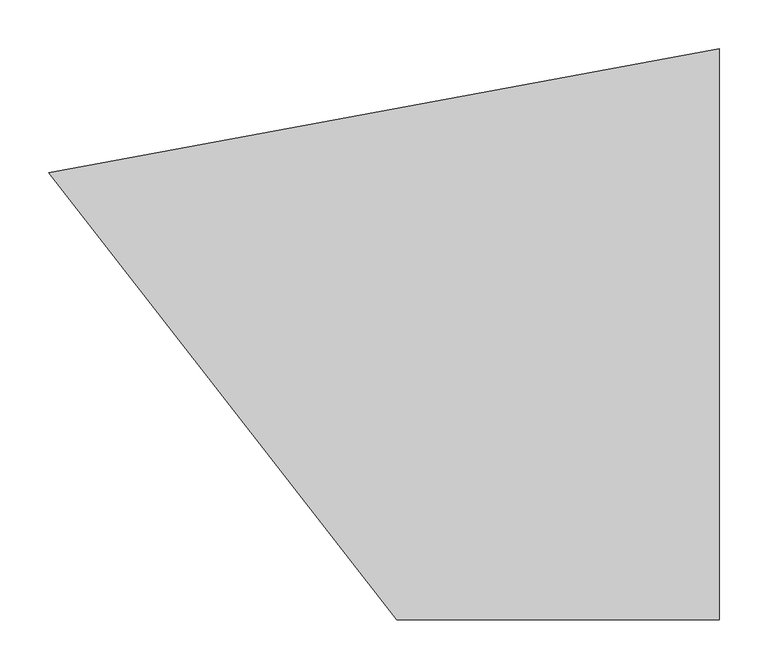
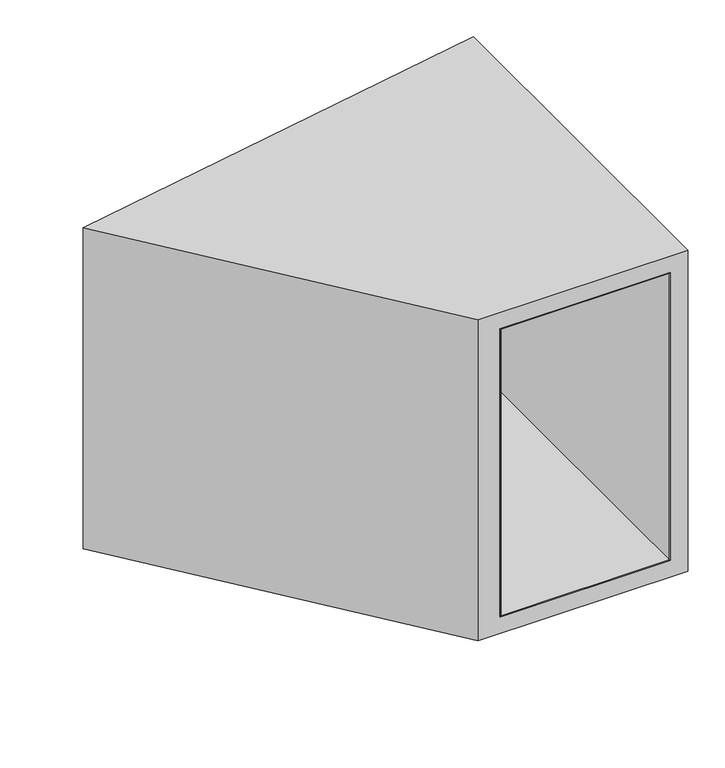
"""IFC4 building model written with IfcOpenShell, lengths in millimetres: furniture geometry, Coalesse_AM_Table_Occasional_Sebastopol_Small : 22H - With Gromment."""

from ifc_helpers import new_model, si_unit, point, frame, frame_2d, origin, origin_with_axes, place, context, project, spatial, polyline, circle_curve, ellipse_curve, trimmed, segment, composite_curve, outline, extrude, source, transform, mapped, element, save
from ifc_brep_helpers import plane_surface, cylinder_surface, revolved_surface, advanced_brep


def furniture_3d79d3fe(model_context):
    return source(origin(), model_context, "Body", "SolidModel", [
        extrude(outline(polyline([(-28.8798, -5.3450123), (-28.8798, -584.2), (-293.6029229, -584.2), (-654.1401583, -121.0668767), (-28.8798, -5.3450123)]), holes=[composite_curve([segment(trimmed(circle_curve(frame_2d((-254.0, -331.2986121)), 69.5528681), [point((-184.4471319, -331.2986121))], [point((-323.5528681, -331.2986121))], True, "CARTESIAN"), True, "CONTINUOUS"), segment(trimmed(circle_curve(frame_2d((-254.0, -331.2986121)), 69.5528681), [point((-323.5528681, -331.2986121))], [point((-184.4471319, -331.2986121))], True, "CARTESIAN"), True, "CONTINUOUS")], self_intersect=False)]), frame((0.0, 0.0, 53.0098003), z_axis=(0.0, 0.0, 1.0), x_axis=(1.0, 0.0, 0.0)), (0.0, 0.0, 1.0), 1.2699997),
        advanced_brep(
        [(-298.2624445, -331.2986121, 41.2015362), (-209.7375555, -331.2986121, 41.2015362), (-209.108362, -331.2986121, 42.1809258), (-298.891638, -331.2986121, 42.1809258), (-298.0451032, -331.2986121, 34.9776975), (-209.9548968, -331.2986121, 34.9776975), (-300.5087748, -331.2986121, 34.9776975), (-207.4912252, -331.2986121, 34.9776975), (-316.5376646, -331.2986121, 34.9776975), (-191.4623354, -331.2986121, 34.9776975), (-316.5376646, -331.2986121, 36.7445615), (-191.4623354, -331.2986121, 36.7445615), (-313.634887, -331.2986121, 39.7504757), (-194.365113, -331.2986121, 39.7504757), (-303.5164029, -331.2986121, 40.103821), (-204.4835971, -331.2986121, 40.103821), (-303.2122443, -331.2986121, 41.5347748), (-204.7877557, -331.2986121, 41.5347748), (-322.580416, -331.2986121, 50.9812633), (-185.419584, -331.2986121, 50.9812633), (-323.0468314, -331.2986121, 51.727684), (-184.9531686, -331.2986121, 51.727684), (-323.0468314, -331.2986121, 53.0098), (-184.9531686, -331.2986121, 53.0098), (-325.9507609, -331.2986121, 53.0098), (-182.0492391, -331.2986121, 53.0098), (-325.9507609, -331.2986121, 54.0178131), (-182.0492391, -331.2986121, 54.0178131), (-324.4374153, -331.2986121, 54.9531343), (-183.5625847, -331.2986121, 54.9531343)],
        [
            (0, 1, circle_curve(frame((-254.0, -331.2986121, 41.2015362), z_axis=(0.0, 0.0, -1.0), x_axis=(1.0, 0.0, 0.0)), 44.2624445)),
            (1, 2, circle_curve(frame((-208.5988114, -331.2986121, 41.1617704), z_axis=(0.0, 1.0, 0.0), x_axis=(0.0, 0.0, 1.0)), 1.1394383)),
            (2, 3, circle_curve(frame((-254.0, -331.2986121, 42.1809258), z_axis=(0.0, 0.0, 1.0), x_axis=(1.0, 0.0, 0.0)), 44.891638)),
            (3, 0, circle_curve(frame((-299.4011886, -331.2986121, 41.1617704), z_axis=(0.0, 1.0, 0.0), x_axis=(0.0, 0.0, 1.0)), 1.1394383)),
            (1, 0, circle_curve(frame((-254.0, -331.2986121, 41.2015362), z_axis=(0.0, 0.0, -1.0), x_axis=(1.0, 0.0, 0.0)), 44.2624445)),
            (3, 2, circle_curve(frame((-254.0, -331.2986121, 42.1809258), z_axis=(0.0, 0.0, 1.0), x_axis=(1.0, 0.0, 0.0)), 44.891638)),
            (4, 5, circle_curve(frame((-254.0, -331.2986121, 34.9776975), z_axis=(0.0, 0.0, -1.0), x_axis=(1.0, 0.0, 0.0)), 44.0451032)),
            (5, 1),
            (0, 4),
            (5, 4, circle_curve(frame((-254.0, -331.2986121, 34.9776975), z_axis=(0.0, 0.0, -1.0), x_axis=(1.0, 0.0, 0.0)), 44.0451032)),
            (6, 7, circle_curve(frame((-254.0, -331.2986121, 34.9776975), z_axis=(0.0, 0.0, -1.0), x_axis=(1.0, 0.0, 0.0)), 46.5087748)),
            (7, 5, circle_curve(frame((-208.723061, -331.2986121, 34.9346809), z_axis=(0.0, 1.0, 0.0), x_axis=(0.0, 0.0, 1.0)), 1.2325866)),
            (4, 6, circle_curve(frame((-299.276939, -331.2986121, 34.9346809), z_axis=(0.0, 1.0, 0.0), x_axis=(0.0, 0.0, 1.0)), 1.2325866)),
            (7, 6, circle_curve(frame((-254.0, -331.2986121, 34.9776975), z_axis=(0.0, 0.0, -1.0), x_axis=(1.0, 0.0, 0.0)), 46.5087748)),
            (8, 9, circle_curve(frame((-254.0, -331.2986121, 34.9776975), z_axis=(0.0, 0.0, -1.0), x_axis=(1.0, 0.0, 0.0)), 62.5376646)),
            (9, 7),
            (6, 8),
            (9, 8, circle_curve(frame((-254.0, -331.2986121, 34.9776975), z_axis=(0.0, 0.0, -1.0), x_axis=(1.0, 0.0, 0.0)), 62.5376646)),
            (10, 11, circle_curve(frame((-254.0, -331.2986121, 36.7445615), z_axis=(0.0, 0.0, -1.0), x_axis=(1.0, 0.0, 0.0)), 62.5376646)),
            (11, 9),
            (8, 10),
            (11, 10, circle_curve(frame((-254.0, -331.2986121, 36.7445615), z_axis=(0.0, 0.0, -1.0), x_axis=(1.0, 0.0, 0.0)), 62.5376646)),
            (12, 13, circle_curve(frame((-254.0, -331.2986121, 39.7504757), z_axis=(0.0, 0.0, -1.0), x_axis=(1.0, 0.0, 0.0)), 59.634887)),
            (13, 11, circle_curve(frame((-194.4700819, -331.2986121, 36.7445615), z_axis=(0.0, 1.0, 0.0), x_axis=(0.0, 0.0, 1.0)), 3.0077465)),
            (10, 12, circle_curve(frame((-313.5299181, -331.2986121, 36.7445615), z_axis=(0.0, 1.0, 0.0), x_axis=(0.0, 0.0, 1.0)), 3.0077465)),
            (13, 12, circle_curve(frame((-254.0, -331.2986121, 39.7504757), z_axis=(0.0, 0.0, -1.0), x_axis=(1.0, 0.0, 0.0)), 59.634887)),
            (14, 15, circle_curve(frame((-254.0, -331.2986121, 40.103821), z_axis=(0.0, 0.0, -1.0), x_axis=(1.0, 0.0, 0.0)), 49.5164029)),
            (15, 13),
            (12, 14),
            (15, 14, circle_curve(frame((-254.0, -331.2986121, 40.103821), z_axis=(0.0, 0.0, -1.0), x_axis=(1.0, 0.0, 0.0)), 49.5164029)),
            (16, 17, circle_curve(frame((-254.0, -331.2986121, 41.5347748), z_axis=(0.0, 0.0, -1.0), x_axis=(1.0, 0.0, 0.0)), 49.2122443)),
            (17, 15, circle_curve(frame((-204.457288, -331.2986121, 40.8572155), z_axis=(0.0, -1.0, 0.0), x_axis=(0.0, 0.0, 1.0)), 0.7538537)),
            (14, 16, circle_curve(frame((-303.542712, -331.2986121, 40.8572155), z_axis=(0.0, -1.0, 0.0), x_axis=(0.0, 0.0, 1.0)), 0.7538537)),
            (17, 16, circle_curve(frame((-254.0, -331.2986121, 41.5347748), z_axis=(0.0, 0.0, -1.0), x_axis=(1.0, 0.0, 0.0)), 49.2122443)),
            (18, 19, circle_curve(frame((-254.0, -331.2986121, 50.9812633), z_axis=(0.0, 0.0, -1.0), x_axis=(1.0, 0.0, 0.0)), 68.580416)),
            (19, 17),
            (16, 18),
            (19, 18, circle_curve(frame((-254.0, -331.2986121, 50.9812633), z_axis=(0.0, 0.0, -1.0), x_axis=(1.0, 0.0, 0.0)), 68.580416)),
            (20, 21, circle_curve(frame((-254.0, -331.2986121, 51.727684), z_axis=(0.0, 0.0, -1.0), x_axis=(1.0, 0.0, 0.0)), 69.0468314)),
            (21, 19, circle_curve(frame((-185.7836377, -331.2986121, 51.727684), z_axis=(0.0, 1.0, 0.0), x_axis=(0.0, 0.0, 1.0)), 0.8304691)),
            (18, 20, circle_curve(frame((-322.2163623, -331.2986121, 51.727684), z_axis=(0.0, 1.0, 0.0), x_axis=(0.0, 0.0, 1.0)), 0.8304691)),
            (21, 20, circle_curve(frame((-254.0, -331.2986121, 51.727684), z_axis=(0.0, 0.0, -1.0), x_axis=(1.0, 0.0, 0.0)), 69.0468314)),
            (22, 23, circle_curve(frame((-254.0, -331.2986121, 53.0098), z_axis=(0.0, 0.0, -1.0), x_axis=(1.0, 0.0, 0.0)), 69.0468314)),
            (23, 21),
            (20, 22),
            (23, 22, circle_curve(frame((-254.0, -331.2986121, 53.0098), z_axis=(0.0, 0.0, -1.0), x_axis=(1.0, 0.0, 0.0)), 69.0468314)),
            (24, 25, circle_curve(frame((-254.0, -331.2986121, 53.0098), z_axis=(0.0, 0.0, -1.0), x_axis=(1.0, 0.0, 0.0)), 71.9507609)),
            (25, 23),
            (22, 24),
            (25, 24, circle_curve(frame((-254.0, -331.2986121, 53.0098), z_axis=(0.0, 0.0, -1.0), x_axis=(1.0, 0.0, 0.0)), 71.9507609)),
            (26, 27, circle_curve(frame((-254.0, -331.2986121, 54.0178131), z_axis=(0.0, 0.0, -1.0), x_axis=(1.0, 0.0, 0.0)), 71.9507609)),
            (27, 25),
            (24, 26),
            (27, 26, circle_curve(frame((-254.0, -331.2986121, 54.0178131), z_axis=(0.0, 0.0, -1.0), x_axis=(1.0, 0.0, 0.0)), 71.9507609)),
            (28, 29, circle_curve(frame((-254.0, -331.2986121, 54.9531343), z_axis=(0.0, 0.0, -1.0), x_axis=(1.0, 0.0, 0.0)), 70.4374153)),
            (29, 27, circle_curve(frame((-183.094949, -331.2986121, 54.0178131), z_axis=(0.0, 1.0, 0.0), x_axis=(0.0, 0.0, 1.0)), 1.0457098)),
            (26, 28, circle_curve(frame((-324.905051, -331.2986121, 54.0178131), z_axis=(0.0, 1.0, 0.0), x_axis=(0.0, 0.0, 1.0)), 1.0457098)),
            (29, 28, circle_curve(frame((-254.0, -331.2986121, 54.9531343), z_axis=(0.0, 0.0, -1.0), x_axis=(1.0, 0.0, 0.0)), 70.4374153)),
            (2, 29),
            (28, 3),
        ],
        [
            revolved_surface(trimmed(ellipse_curve(frame((-208.5988114, -331.2986121, 41.1617704), z_axis=(0.0, -1.0, 0.0), x_axis=(0.0, 0.0, 1.0)), 1.1394383, 1.1394383), [point((-209.108362, -331.2986121, 42.1809258))], [point((-209.7375555, -331.2986121, 41.2015362))], True, "CARTESIAN"), (-254.0, -331.2986121, 34.9776975), (0.0, 0.0, 1.0)),
            revolved_surface(polyline([(-209.7375555, -331.2986121, 41.2015362), (-209.9548968, -331.2986121, 34.9776975)]), (-254.0, -331.2986121, 34.9776975), (0.0, 0.0, 1.0)),
            revolved_surface(trimmed(ellipse_curve(frame((-208.723061, -331.2986121, 34.9346809), z_axis=(0.0, -1.0, 0.0), x_axis=(0.0, 0.0, 1.0)), 1.2325866, 1.2325866), [point((-209.9548968, -331.2986121, 34.9776975))], [point((-207.4912252, -331.2986121, 34.9776975))], True, "CARTESIAN"), (-254.0, -331.2986121, 34.9776975), (0.0, 0.0, 1.0)),
            plane_surface(frame((-254.0, -331.2986121, 34.9776975), z_axis=(0.0, 0.0, -1.0), x_axis=(1.0, 0.0, 0.0))),
            cylinder_surface(frame((-254.0, -331.2986121, 34.9776975), z_axis=(0.0, 0.0, 1.0), x_axis=(1.0, 0.0, 0.0)), 62.5376646),
            revolved_surface(trimmed(ellipse_curve(frame((-194.4700819, -331.2986121, 36.7445615), z_axis=(0.0, -1.0, 0.0), x_axis=(0.0, 0.0, 1.0)), 3.0077465, 3.0077465), [point((-191.4623354, -331.2986121, 36.7445615))], [point((-194.365113, -331.2986121, 39.7504757))], True, "CARTESIAN"), (-254.0, -331.2986121, 34.9776975), (0.0, 0.0, 1.0)),
            revolved_surface(polyline([(-194.365113, -331.2986121, 39.7504757), (-204.4835971, -331.2986121, 40.103821)]), (-254.0, -331.2986121, 34.9776975), (0.0, 0.0, 1.0)),
            revolved_surface(trimmed(ellipse_curve(frame((-204.457288, -331.2986121, 40.8572155), z_axis=(0.0, 1.0, 0.0), x_axis=(0.0, 0.0, 1.0)), 0.7538537, 0.7538537), [point((-204.4835971, -331.2986121, 40.103821))], [point((-204.7877557, -331.2986121, 41.5347748))], True, "CARTESIAN"), (-254.0, -331.2986121, 34.9776975), (0.0, 0.0, 1.0)),
            revolved_surface(polyline([(-204.7877557, -331.2986121, 41.5347748), (-185.419584, -331.2986121, 50.9812633)]), (-254.0, -331.2986121, 34.9776975), (0.0, 0.0, 1.0)),
            revolved_surface(trimmed(ellipse_curve(frame((-185.7836377, -331.2986121, 51.727684), z_axis=(0.0, -1.0, 0.0), x_axis=(0.0, 0.0, 1.0)), 0.8304691, 0.8304691), [point((-185.419584, -331.2986121, 50.9812633))], [point((-184.9531686, -331.2986121, 51.727684))], True, "CARTESIAN"), (-254.0, -331.2986121, 34.9776975), (0.0, 0.0, 1.0)),
            cylinder_surface(frame((-254.0, -331.2986121, 34.9776975), z_axis=(0.0, 0.0, 1.0), x_axis=(1.0, 0.0, 0.0)), 69.0468314),
            plane_surface(frame((-254.0, -331.2986121, 53.0098), z_axis=(0.0, 0.0, -1.0), x_axis=(1.0, 0.0, 0.0))),
            cylinder_surface(frame((-254.0, -331.2986121, 34.9776975), z_axis=(0.0, 0.0, 1.0), x_axis=(1.0, 0.0, 0.0)), 71.9507609),
            revolved_surface(trimmed(ellipse_curve(frame((-183.094949, -331.2986121, 54.0178131), z_axis=(0.0, -1.0, 0.0), x_axis=(0.0, 0.0, 1.0)), 1.0457098, 1.0457098), [point((-182.0492391, -331.2986121, 54.0178131))], [point((-183.5625847, -331.2986121, 54.9531343))], True, "CARTESIAN"), (-254.0, -331.2986121, 34.9776975), (0.0, 0.0, 1.0)),
            revolved_surface(polyline([(-183.5625847, -331.2986121, 54.9531343), (-209.108362, -331.2986121, 42.1809258)]), (-254.0, -331.2986121, 34.9776975), (0.0, 0.0, 1.0)),
        ],
        [
            (0, [[1, 2, 3, 4]]),
            (0, [[5, -4, 6, -2]]),
            (1, [[7, 8, -1, 9]]),
            (1, [[10, -9, -5, -8]]),
            (2, [[11, 12, -7, 13]]),
            (2, [[14, -13, -10, -12]]),
            (3, [[15, 16, -11, 17]]),
            (3, [[18, -17, -14, -16]]),
            (4, [[19, 20, -15, 21]]),
            (4, [[22, -21, -18, -20]]),
            (5, [[23, 24, -19, 25]]),
            (5, [[26, -25, -22, -24]]),
            (6, [[27, 28, -23, 29]]),
            (6, [[30, -29, -26, -28]]),
            (7, [[31, 32, -27, 33]]),
            (7, [[34, -33, -30, -32]]),
            (8, [[35, 36, -31, 37]]),
            (8, [[38, -37, -34, -36]]),
            (9, [[39, 40, -35, 41]]),
            (9, [[42, -41, -38, -40]]),
            (10, [[43, 44, -39, 45]]),
            (10, [[46, -45, -42, -44]]),
            (11, [[47, 48, -43, 49]]),
            (11, [[50, -49, -46, -48]]),
            (12, [[51, 52, -47, 53]]),
            (12, [[54, -53, -50, -52]]),
            (13, [[55, 56, -51, 57]]),
            (13, [[58, -57, -54, -56]]),
            (14, [[-3, 59, -55, 60]]),
            (14, [[-6, -60, -58, -59]]),
        ],
    ),
        extrude(outline(polyline([(-28.8798, -5.3450121), (-28.8798, -584.2), (-293.6029238, -584.2), (-654.1401592, -121.0668767), (-28.8798, -5.3450121)])), frame((0.0, 0.0, 530.1742), z_axis=(0.0, 0.0, 1.0), x_axis=(1.0, 0.0, 0.0)), (0.0, 0.0, 1.0), 1.0160148),
        extrude(outline(polyline([(-28.8798, -5.3450124), (-27.6097996, -5.1099634), (-27.6097996, -584.2), (-28.8798, -584.2), (-28.8798, -5.3450124)])), frame((0.0, 0.0, 53.0098003), z_axis=(0.0, 0.0, 1.0), x_axis=(1.0, 0.0, 0.0)), (0.0, 0.0, 1.0), 478.1804145),
        extrude(outline(polyline([(-654.1401467, -121.0668915), (-293.6008661, -584.1999904), (-295.210327, -584.1999904), (-655.5469207, -121.3272543), (-654.1401467, -121.0668915)])), frame((0.0, 0.0, 53.0098003), z_axis=(0.0, 0.0, 1.0), x_axis=(1.0, 0.0, 0.0)), (0.0, 0.0, 1.0), 478.1804145),
        extrude(outline(composite_curve([segment(trimmed(circle_curve(frame_2d((-303.6026265, -530.8298119)), 17.272), [point((-320.8746265, -530.8298119))], [point((-286.3306265, -530.8298119))], False, "CARTESIAN"), True, "CONTINUOUS"), segment(trimmed(circle_curve(frame_2d((-303.6026265, -530.8298119)), 17.272), [point((-286.3306265, -530.8298119))], [point((-320.8746265, -530.8298119))], False, "CARTESIAN"), True, "CONTINUOUS")], self_intersect=False)), origin_with_axes(), (0.0, 0.0, 1.0), 13.97),
        extrude(outline(composite_curve([segment(trimmed(circle_curve(frame_2d((-54.1946691, -530.8298119)), 17.272), [point((-71.4666691, -530.8298119))], [point((-36.9226691, -530.8298119))], False, "CARTESIAN"), True, "CONTINUOUS"), segment(trimmed(circle_curve(frame_2d((-54.1946691, -530.8298119)), 17.272), [point((-36.9226691, -530.8298119))], [point((-71.4666691, -530.8298119))], False, "CARTESIAN"), True, "CONTINUOUS")], self_intersect=False)), origin_with_axes(), (0.0, 0.0, 1.0), 13.97),
        extrude(outline(composite_curve([segment(trimmed(circle_curve(frame_2d((-54.1946691, -64.3766294)), 17.272), [point((-71.4666691, -64.3766294))], [point((-36.9226691, -64.3766294))], False, "CARTESIAN"), True, "CONTINUOUS"), segment(trimmed(circle_curve(frame_2d((-54.1946691, -64.3766294)), 17.272), [point((-36.9226691, -64.3766294))], [point((-71.4666691, -64.3766294))], False, "CARTESIAN"), True, "CONTINUOUS")], self_intersect=False)), origin_with_axes(), (0.0, 0.0, 1.0), 13.97),
        extrude(outline(composite_curve([segment(trimmed(circle_curve(frame_2d((-589.7671168, -163.6088416)), 17.272), [point((-607.0391168, -163.6088416))], [point((-572.4951168, -163.6088416))], False, "CARTESIAN"), True, "CONTINUOUS"), segment(trimmed(circle_curve(frame_2d((-589.7671168, -163.6088416)), 17.272), [point((-572.4951168, -163.6088416))], [point((-607.0391168, -163.6088416))], False, "CARTESIAN"), True, "CONTINUOUS")], self_intersect=False)), origin_with_axes(), (0.0, 0.0, 1.0), 13.97),
        advanced_brep(
        [(-686.1302102, -126.9875278, 558.8), (-330.2000121, -584.1999879, 558.8), (0.0, -584.1999879, 558.8), (0.0, 0.0, 558.8), (-686.1302102, -126.9875278, 25.4000008), (0.0, 0.0, 25.4000008), (0.0, -584.1999879, 25.4000008), (-330.2000121, -584.1999879, 25.4000008), (-184.4471319, -331.2986121, 25.4000008), (-323.5528681, -331.2986121, 25.4000008), (-295.2103195, -584.1999879, 531.1902148), (-27.6097996, -584.1999879, 531.1902148), (-27.6097996, -584.1999879, 53.0098003), (-295.2103195, -584.1999879, 53.0098003), (-27.6097996, -5.1099633, 531.1902148), (-655.5469323, -121.3272394, 531.1902148), (-655.5469323, -121.3272394, 53.0098003), (-27.6097996, -5.1099633, 53.0098003), (-323.5528681, -331.2986121, 53.0098003), (-184.4471319, -331.2986121, 53.0098003)],
        [
            (0, 1),
            (1, 2),
            (2, 3),
            (3, 0),
            (4, 5),
            (5, 6),
            (6, 7),
            (7, 4),
            (8, 9, circle_curve(frame((-254.0, -331.2986121, 25.4000008), z_axis=(0.0, 0.0, 1.0), x_axis=(1.0, 0.0, 0.0)), 69.5528681)),
            (9, 8, circle_curve(frame((-254.0, -331.2986121, 25.4000008), z_axis=(0.0, 0.0, 1.0), x_axis=(1.0, 0.0, 0.0)), 69.5528681)),
            (0, 4),
            (7, 1),
            (6, 2),
            (10, 11),
            (11, 12),
            (12, 13),
            (13, 10),
            (5, 3),
            (14, 15),
            (15, 16),
            (16, 17),
            (17, 14),
            (10, 15),
            (14, 11),
            (12, 17),
            (16, 13),
            (18, 19, circle_curve(frame((-254.0, -331.2986121, 53.0098003), z_axis=(0.0, 0.0, -1.0), x_axis=(1.0, 0.0, 0.0)), 69.5528681)),
            (19, 18, circle_curve(frame((-254.0, -331.2986121, 53.0098003), z_axis=(0.0, 0.0, -1.0), x_axis=(1.0, 0.0, 0.0)), 69.5528681)),
            (18, 9),
            (8, 19),
        ],
        [
            plane_surface(frame((-686.1302124, -126.987525, 558.8), z_axis=(0.0, 0.0, 1.0), x_axis=(0.6142852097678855, -0.7890840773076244, 0.0))),
            plane_surface(frame((-686.1302124, -126.987525, 25.4000008), z_axis=(0.0, 0.0, -1.0), x_axis=(-0.6142852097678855, 0.7890840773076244, 0.0))),
            plane_surface(frame((-686.1302102, -126.9875278, 558.8), z_axis=(-0.7890840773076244, -0.6142852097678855, 0.0), x_axis=(0.0, 0.0, -1.0))),
            plane_surface(frame((-330.2000121, -584.1999879, 558.8), z_axis=(0.0, -1.0, 0.0), x_axis=(0.0, 0.0, -1.0))),
            plane_surface(frame((0.0, -584.1999879, 558.8), z_axis=(1.0, 0.0, 0.0), x_axis=(0.0, 0.0, -1.0))),
            plane_surface(frame((0.0, 0.0, 558.8), z_axis=(-0.18198724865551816, 0.9833008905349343, 0.0), x_axis=(0.0, 0.0, -1.0))),
            plane_surface(frame((-28.8798, -584.2, 531.1902148), z_axis=(0.0, 0.0, -1.0), x_axis=(1.0, 0.0, 0.0))),
            plane_surface(frame((-28.8798, -584.2, 53.0098003), z_axis=(0.0, 0.0, 1.0), x_axis=(-1.0, 0.0, 0.0))),
            plane_surface(frame((-27.6097996, -584.2, 531.1902148), z_axis=(-1.0, 0.0, 0.0), x_axis=(0.0, 0.0, -1.0))),
            plane_surface(frame((-655.9515696, -120.80746, 531.1902148), z_axis=(0.7890840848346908, 0.614285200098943, 0.0), x_axis=(0.0, 0.0, -1.0))),
            revolved_surface(polyline([(-184.4471319, -331.2986121, 53.009800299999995), (-184.4471319, -331.2986121, 25.4000008)]), (-254.0, -331.2986121, -63.5), (0.0, 0.0, 1.0)),
        ],
        [
            (0, [[1, 2, 3, 4]]),
            (1, [[5, 6, 7, 8], [9, 10]]),
            (2, [[-1, 11, -8, 12]]),
            (3, [[-2, -12, -7, 13], [14, 15, 16, 17]]),
            (4, [[-3, -13, -6, 18]]),
            (5, [[-4, -18, -5, -11], [19, 20, 21, 22]]),
            (6, [[23, -19, 24, -14]]),
            (7, [[25, -21, 26, -16], [27, 28]]),
            (8, [[-24, -22, -25, -15]]),
            (9, [[-23, -17, -26, -20]]),
            (10, [[29, -9, 30, -27]]),
            (10, [[-29, -28, -30, -10]]),
        ],
    ),
        extrude(outline(composite_curve([segment(trimmed(circle_curve(frame_2d((-303.2565091, -530.7936073)), 4.826), [point((-308.0825091, -530.7936073))], [point((-298.4305091, -530.7936073))], False, "CARTESIAN"), True, "CONTINUOUS"), segment(trimmed(circle_curve(frame_2d((-303.2565091, -530.7936073)), 4.826), [point((-298.4305091, -530.7936073))], [point((-308.0825091, -530.7936073))], False, "CARTESIAN"), True, "CONTINUOUS")], self_intersect=False)), frame((0.0, 0.0, 13.97), z_axis=(0.0, 0.0, 1.0), x_axis=(1.0, 0.0, 0.0)), (0.0, 0.0, 1.0), 11.4300008),
        extrude(outline(composite_curve([segment(trimmed(circle_curve(frame_2d((-53.8485517, -530.7936073)), 4.826), [point((-58.6745517, -530.7936073))], [point((-49.0225517, -530.7936073))], False, "CARTESIAN"), True, "CONTINUOUS"), segment(trimmed(circle_curve(frame_2d((-53.8485517, -530.7936073)), 4.826), [point((-49.0225517, -530.7936073))], [point((-58.6745517, -530.7936073))], False, "CARTESIAN"), True, "CONTINUOUS")], self_intersect=False)), frame((0.0, 0.0, 13.97), z_axis=(0.0, 0.0, 1.0), x_axis=(1.0, 0.0, 0.0)), (0.0, 0.0, 1.0), 11.4300008),
        extrude(outline(composite_curve([segment(trimmed(circle_curve(frame_2d((-53.8485517, -64.3404248)), 4.826), [point((-58.6745517, -64.3404248))], [point((-49.0225517, -64.3404248))], False, "CARTESIAN"), True, "CONTINUOUS"), segment(trimmed(circle_curve(frame_2d((-53.8485517, -64.3404248)), 4.826), [point((-49.0225517, -64.3404248))], [point((-58.6745517, -64.3404248))], False, "CARTESIAN"), True, "CONTINUOUS")], self_intersect=False)), frame((0.0, 0.0, 13.97), z_axis=(0.0, 0.0, 1.0), x_axis=(1.0, 0.0, 0.0)), (0.0, 0.0, 1.0), 11.4300008),
        extrude(outline(composite_curve([segment(trimmed(circle_curve(frame_2d((-589.4209994, -163.5726371)), 4.826), [point((-594.2469994, -163.5726371))], [point((-584.5949994, -163.5726371))], False, "CARTESIAN"), True, "CONTINUOUS"), segment(trimmed(circle_curve(frame_2d((-589.4209994, -163.5726371)), 4.826), [point((-584.5949994, -163.5726371))], [point((-594.2469994, -163.5726371))], False, "CARTESIAN"), True, "CONTINUOUS")], self_intersect=False)), frame((0.0, 0.0, 13.97), z_axis=(0.0, 0.0, 1.0), x_axis=(1.0, 0.0, 0.0)), (0.0, 0.0, 1.0), 11.4300008),
    ])


if __name__ == "__main__":
    model = new_model("IFC4")
    model_context = context("Model", 3, world=origin())
    ifc_project = project(units=[si_unit("LENGTHUNIT", "METRE", prefix="MILLI")], contexts=[model_context])
    site = spatial("IfcSite", under=ifc_project)
    building = spatial("IfcBuilding", under=site)
    placement = place(None, origin())
    furniture_shape = furniture_3d79d3fe(model_context)
    element("IfcFurniture", 1, ObjectType="Coalesse_AM_Table_Occasional_Sebastopol_Small : 22H - With Gromment", at=placement, inside=building, context=model_context, shape_type="MappedRepresentation", body=[
        mapped(furniture_shape, transform((0.0, 0.0, 0.0), x_axis=(1.0, 0.0, 0.0), y_axis=(0.0, 1.0, 0.0), z_axis=(0.0, 0.0, 1.0))),
    ])
    save(model, "model.ifc")
